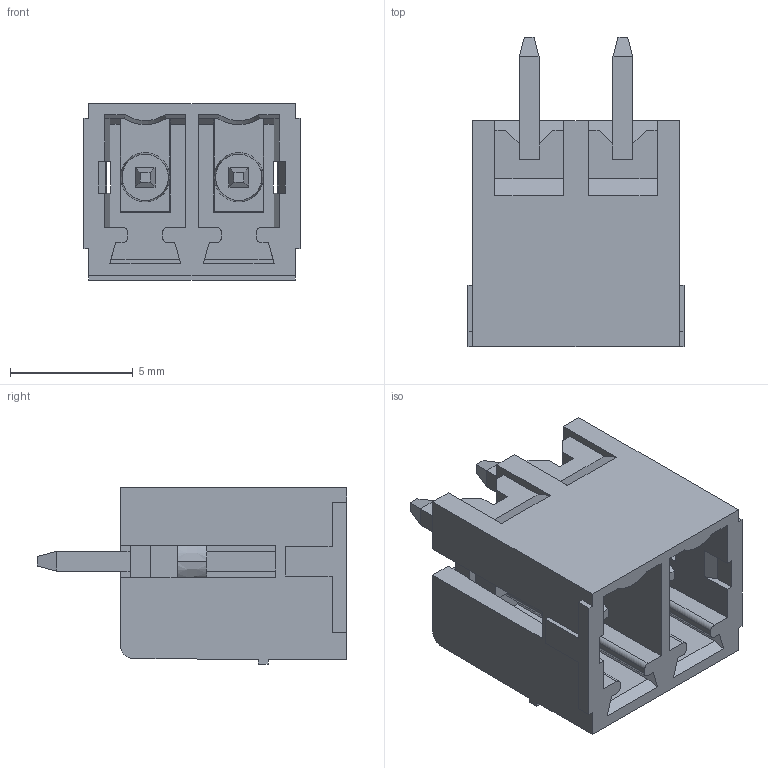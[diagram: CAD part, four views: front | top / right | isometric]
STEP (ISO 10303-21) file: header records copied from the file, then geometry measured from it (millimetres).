
FILE_DESCRIPTION(('FreeCAD Model'),'2;1');
FILE_NAME('Open CASCADE Shape Model','2023-05-24T15:48:21',('Author'),( ''),'Open CASCADE STEP processor 7.6','FreeCAD','Unknown');
FILE_SCHEMA(('AUTOMOTIVE_DESIGN { 1 0 10303 214 1 1 1 1 }'));
Length unit declared in the file: millimetre
Products named in the file (1): BR7MC2-02
Bounding box: 8.81 x 12.6 x 7.2 mm (x, y, z)
Volume: 271.4 mm3; surface area: 831.8 mm2
Topology: 1 solids, 1 shells, 205 faces, 563 edges, 360 vertices
Faces by surface type: plane 184, cylinder 11, cone 6, sphere 4
Entity records: 13913 total; most frequent: CARTESIAN_POINT 2617, DIRECTION 2094, LINE 1585, VECTOR 1585, ORIENTED_EDGE 1118, PCURVE 1118, DEFINITIONAL_REPRESENTATION 1118, EDGE_CURVE 559
